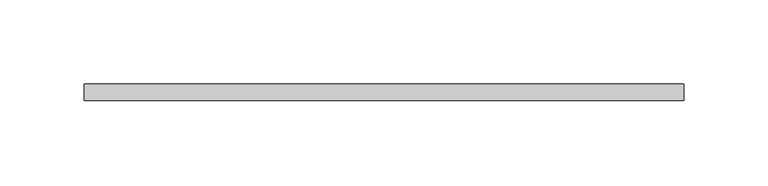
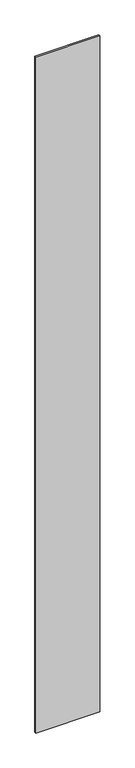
"""IFC4 building model written with IfcOpenShell, lengths in millimetres: plate geometry, システム パネル : 標準."""

from ifc_helpers import new_model, si_unit, origin, origin_with_axes, place, context, project, spatial, polyline, outline, extrude, source, transform, mapped, element, save


def plate_97be90fd(model_context):
    return source(origin(), model_context, "Body", "SweptSolid", [
        extrude(outline(polyline([(178.254713, -5.0), (-178.254713, -5.0), (-178.254713, 5.0), (178.254713, 5.0), (178.254713, -5.0)])), origin_with_axes(), (0.0, 0.0, 1.0), 4000.0),
    ])


if __name__ == "__main__":
    model = new_model("IFC4")
    model_context = context("Model", 3, world=origin())
    ifc_project = project(units=[si_unit("LENGTHUNIT", "METRE", prefix="MILLI")], contexts=[model_context])
    site = spatial("IfcSite", under=ifc_project)
    building = spatial("IfcBuilding", under=site)
    placement = place(None, origin())
    plate_shape = plate_97be90fd(model_context)
    element("IfcPlate", 1, ObjectType="システム パネル : 標準", at=placement, inside=building, context=model_context, shape_type="MappedRepresentation", body=[
        mapped(plate_shape, transform((0.0, 0.0, 0.0), x_axis=(1.0, 0.0, 0.0), y_axis=(0.0, 1.0, 0.0), z_axis=(0.0, 0.0, 1.0))),
    ])
    save(model, "model.ifc")
